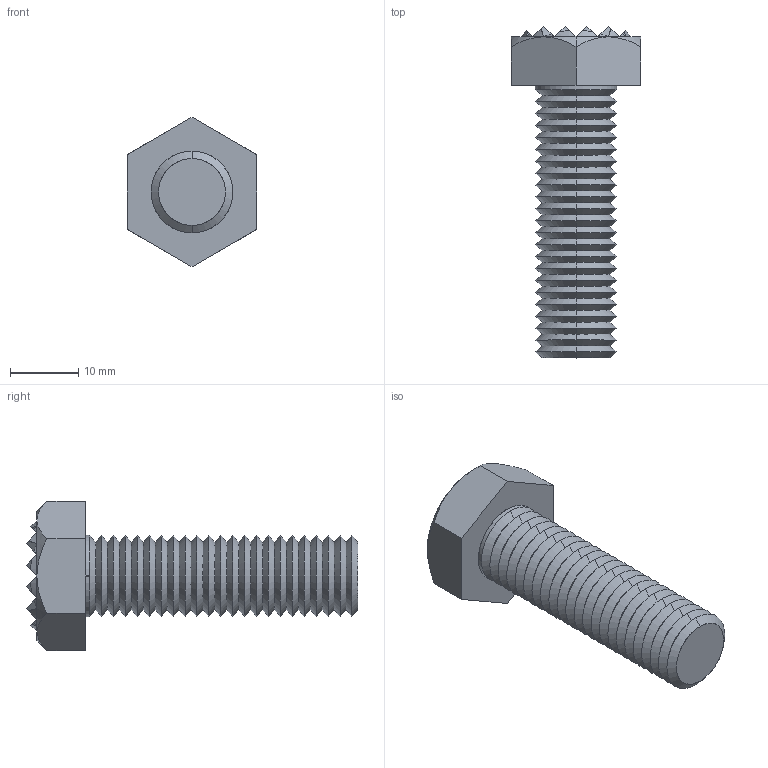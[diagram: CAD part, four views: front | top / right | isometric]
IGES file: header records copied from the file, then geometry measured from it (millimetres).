
Start section: SolidWorks IGES file using analytic representation for surfaces
Global section: file name: C:\Documents and Settings\IANO\Desktop\Temp File\Process pending\NEW\35400_v2\35400_v2_20170704_IGES\35400.W0010.igs; native system: SolidWorks 2009; preprocessor: SolidWorks 2009; author: IANO; date: 170703.082203; units: millimetre
Bounding box: 19 x 48.7 x 21.94 mm (x, y, z)
Surface area: 3307.8 mm2 (no closed solid volume)
Topology: 0 solids, 0 shells, 232 faces, 1057 edges, 1057 vertices
Faces by surface type: revolution 119, bspline 113
